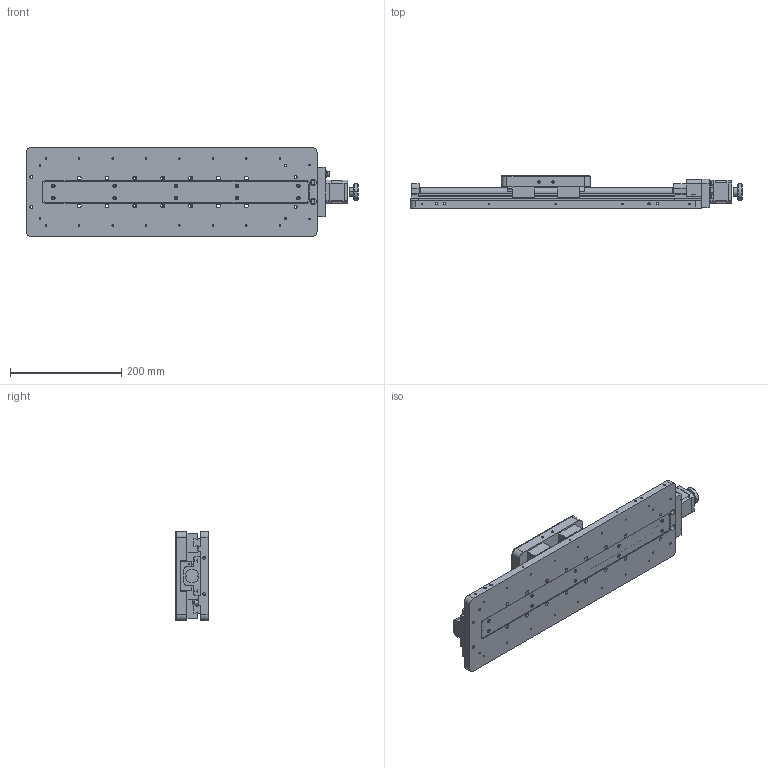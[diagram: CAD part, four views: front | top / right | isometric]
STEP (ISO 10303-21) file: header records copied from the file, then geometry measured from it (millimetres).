
FILE_DESCRIPTION (( 'STEP AP203' ), '1' );
FILE_NAME ('7STA03300Bµç¶¯Æ½ÒÆÌ¨.STEP', '2022-07-07T08:35:28', ( '' ), ( '' ), 'SwSTEP 2.0', 'SolidWorks 2018', '' );
FILE_SCHEMA (( 'CONFIG_CONTROL_DESIGN' ));
Length unit declared in the file: millimetre
Products named in the file (1): 7STA03300B萇雄す痄怢
Bounding box: 596 x 58 x 160 mm (x, y, z)
Surface area: 412838 mm2 (no closed solid volume)
Topology: 0 solids, 118 shells, 1275 faces, 4457 edges, 3219 vertices
Faces by surface type: plane 612, cylinder 506, torus 87, cone 44, sphere 26
Entity records: 48680 total; most frequent: CARTESIAN_POINT 9727, DIRECTION 8559, ORIENTED_EDGE 6853, EDGE_CURVE 4395, VERTEX_POINT 3191, AXIS2_PLACEMENT_3D 3021, VECTOR 2517, LINE 2517
